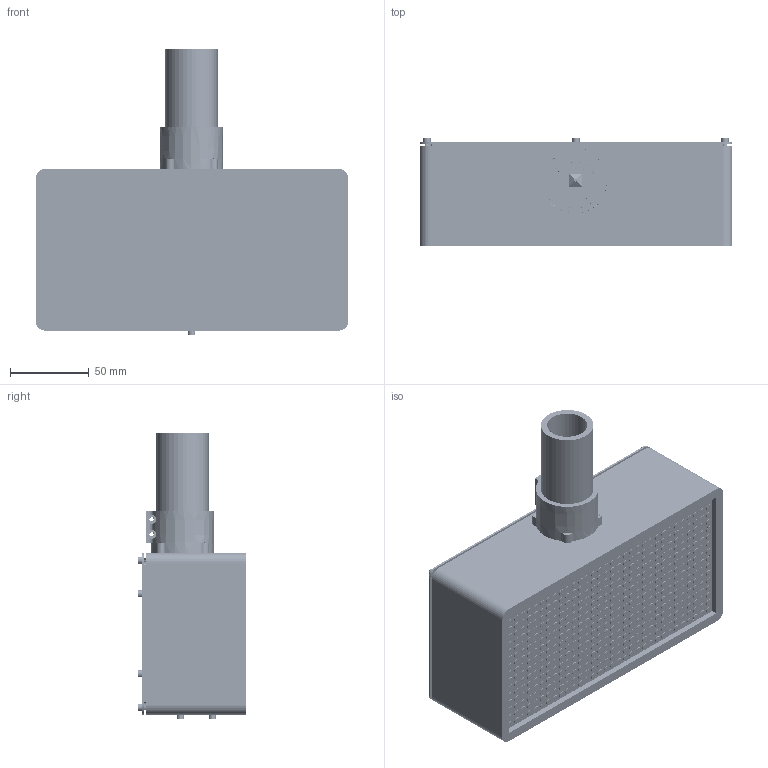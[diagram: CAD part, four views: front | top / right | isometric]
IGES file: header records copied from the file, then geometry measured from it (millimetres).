
Start section: SolidWorks IGES file using analytic representation for surfaces
Global section: file name: C:\Users\ejunkins\Desktop\osr\Mechanical\Head Assembly\CAD\Head Assembly.IGS; native system: SolidWorks 2016; preprocessor: SolidWorks 2016; author: ejunkins; date: 180403.155955; units: inch
Bounding box: 198.69 x 68.88 x 181.91 mm (x, y, z)
Surface area: 219656.9 mm2 (no closed solid volume)
Topology: 0 solids, 0 shells, 4812 faces, 48047 edges, 47999 vertices
Faces by surface type: revolution 2489, bspline 2323
